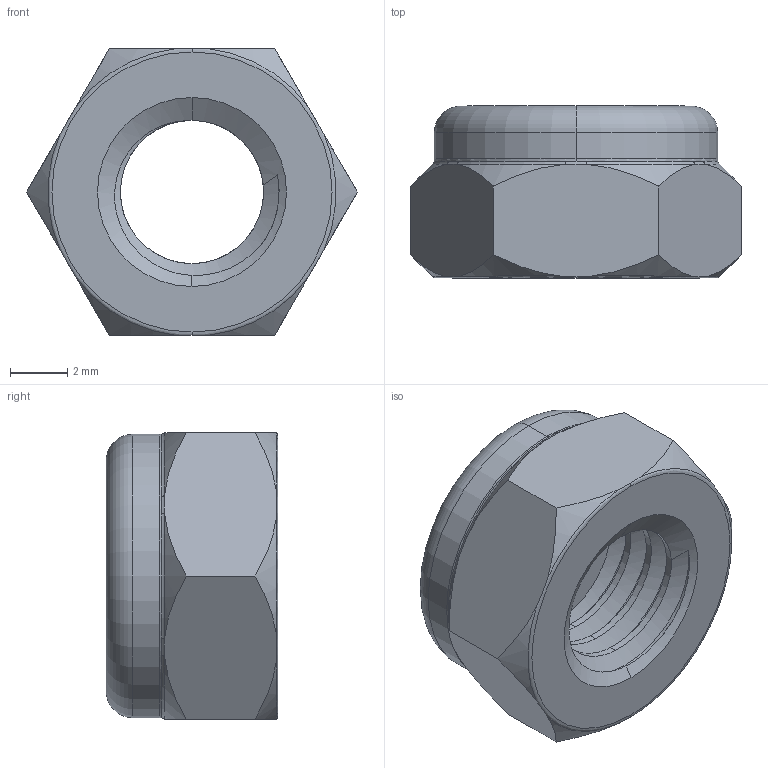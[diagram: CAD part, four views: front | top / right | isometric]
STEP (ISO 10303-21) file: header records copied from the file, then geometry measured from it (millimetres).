
FILE_DESCRIPTION (( 'STEP AP203' ), '1' );
FILE_NAME ('TANK-304-M6.STEP', '2026-08-24T14:41:05', ( '' ), ( '' ), 'SwSTEP 2.0', 'SolidWorks 2020', '' );
FILE_SCHEMA (( 'CONFIG_CONTROL_DESIGN' ));
Length unit declared in the file: millimetre
Products named in the file (1): TANK-304-M6
Bounding box: 11.55 x 6 x 10 mm (x, y, z)
Volume: 333 mm3; surface area: 633.7 mm2
Topology: 2 solids, 2 shells, 69 faces, 170 edges, 105 vertices
Faces by surface type: cone 18, torus 16, cylinder 16, plane 10, bspline 9
Entity records: 3311 total; most frequent: CARTESIAN_POINT 1735, ORIENTED_EDGE 340, DIRECTION 291, EDGE_CURVE 170, AXIS2_PLACEMENT_3D 132, VERTEX_POINT 105, EDGE_LOOP 73, CIRCLE 71
